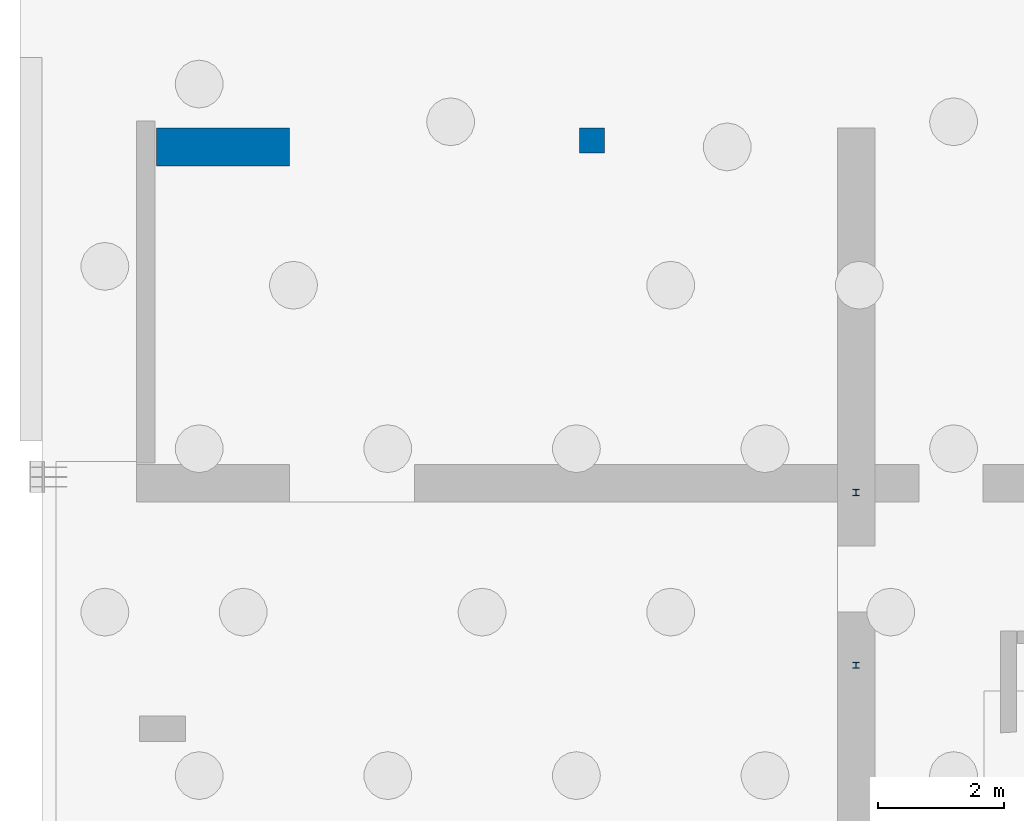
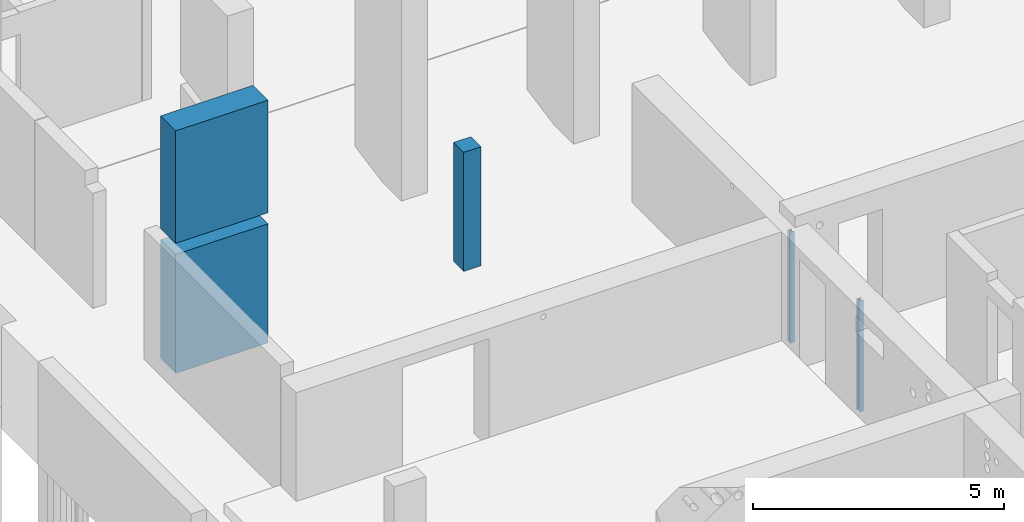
# One storey, part 11 of 26: 4 columns.
"""IFC2X3 building model written with IfcOpenShell, lengths in millimetres."""

from ifc_helpers import new_model, entity, si_unit, converted_unit, derived_unit, direction, frame, frame_2d, origin, origin_2d_with_axis, place, context, subcontext, project, spatial, polyline, circle_curve, parameter, trimmed, segment, composite_curve, rectangle, outline, extrude, source, transform, mapped, material, type_object, type_shapes, element, save


model = new_model("IFC2X3")

# Units and contexts
model_context = context("Model", 3, precision=0.01, world=origin(), true_north=direction((6.12303176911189e-17, 1.0)))
body_context = subcontext(model_context, "Body", "Model", "MODEL_VIEW")
ifc_project = project(units=[si_unit("LENGTHUNIT", "METRE", prefix="MILLI"), si_unit("AREAUNIT", "SQUARE_METRE"), si_unit("VOLUMEUNIT", "CUBIC_METRE"), converted_unit("PLANEANGLEUNIT", "DEGREE", entity("IfcRatioMeasure", 0.0174532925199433), si_unit("PLANEANGLEUNIT", "RADIAN"), dimensions=[0, 0, 0, 0, 0, 0, 0]), si_unit("MASSUNIT", "GRAM", prefix="KILO"), derived_unit("MASSDENSITYUNIT", [(si_unit("MASSUNIT", "GRAM", prefix="KILO"), 1), (si_unit("LENGTHUNIT", "METRE"), -3)]), si_unit("TIMEUNIT", "SECOND"), si_unit("FREQUENCYUNIT", "HERTZ"), si_unit("THERMODYNAMICTEMPERATUREUNIT", "DEGREE_CELSIUS"), derived_unit("THERMALTRANSMITTANCEUNIT", [(si_unit("MASSUNIT", "GRAM", prefix="KILO"), 1), (si_unit("THERMODYNAMICTEMPERATUREUNIT", "KELVIN"), -1), (si_unit("TIMEUNIT", "SECOND"), -3)]), derived_unit("VOLUMETRICFLOWRATEUNIT", [(si_unit("LENGTHUNIT", "METRE"), 3), (si_unit("TIMEUNIT", "SECOND"), -1)]), si_unit("ELECTRICCURRENTUNIT", "AMPERE"), si_unit("ELECTRICVOLTAGEUNIT", "VOLT"), si_unit("POWERUNIT", "WATT"), si_unit("FORCEUNIT", "NEWTON", prefix="KILO"), si_unit("ILLUMINANCEUNIT", "LUX"), si_unit("LUMINOUSFLUXUNIT", "LUMEN"), si_unit("LUMINOUSINTENSITYUNIT", "CANDELA"), derived_unit("USERDEFINED", [(si_unit("MASSUNIT", "GRAM", prefix="KILO"), -1), (si_unit("LENGTHUNIT", "METRE"), -2), (si_unit("TIMEUNIT", "SECOND"), 3), (si_unit("LUMINOUSFLUXUNIT", "LUMEN"), 1)]), derived_unit("LINEARVELOCITYUNIT", [(si_unit("LENGTHUNIT", "METRE"), 1), (si_unit("TIMEUNIT", "SECOND"), -1)]), si_unit("PRESSUREUNIT", "PASCAL"), derived_unit("USERDEFINED", [(si_unit("LENGTHUNIT", "METRE"), -2), (si_unit("MASSUNIT", "GRAM", prefix="KILO"), 1), (si_unit("TIMEUNIT", "SECOND"), -2)])], contexts=[model_context])

# Site, building, storey
site_placement = place(None, origin())
site = spatial("IfcSite", under=ifc_project, at=site_placement, Name="Default", CompositionType="ELEMENT")
building_placement = place(site_placement, origin())
building = spatial("IfcBuilding", under=site, at=building_placement, Name="niet gebruiken", CompositionType="ELEMENT")
storey_placement = place(building_placement, origin())
storey = spatial("IfcBuildingStorey", under=building, at=storey_placement, Name="00 begane grond", CompositionType="ELEMENT", Elevation=0.0)

# Columns
ifc_material_1 = material(Name="NLRS_f2_beton ihwg")
column_type_1 = type_object("IfcColumnType", Name="600x2120", PredefinedType="COLUMN", material=ifc_material_1)
shared_shape_1 = source(origin(), body_context, "Body", "SweptSolid", [
    extrude(rectangle(XDim=600.000000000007, YDim=2120.0, at=origin_2d_with_axis()), frame((125630.0, 30100.0, 2910.0), z_axis=(0.0, 0.0, 1.0), x_axis=(0.0, -1.0, 0.0)), (0.0, 0.0, 1.0), 2730.0),
    extrude(rectangle(XDim=600.000000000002, YDim=2120.0, at=origin_2d_with_axis()), frame((125630.0, 30100.0, -250.0), z_axis=(0.0, 0.0, 1.0), x_axis=(0.0, -1.0, 0.0)), (0.0, 0.0, 1.0), 2890.0),
])
type_shapes(column_type_1, [shared_shape_1])
column_1_placement = place(storey_placement, origin())
element("IfcColumn", 1, at=column_1_placement, inside=storey, type_object=column_type_1, material=ifc_material_1, Name="NLRS_28.11_SCO_TLB_beton kolom ihwg_gen:600x2120", ObjectType="600x2120", context=body_context, shape_type="MappedRepresentation", body=[
    mapped(shared_shape_1, transform((0.0, 0.0, 0.0), scale=1.0)),
])
column_type_2 = type_object("IfcColumnType", Name="400x400", PredefinedType="COLUMN", material=ifc_material_1)
shared_shape_2 = source(origin(), body_context, "Body", "SweptSolid", [
    extrude(rectangle(XDim=400.0, YDim=399.999999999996, at=frame_2d((2.17426077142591e-12, 0.0), x_axis=(1.0, 0.0))), frame((131500.0, 30200.0, -250.0), z_axis=(0.0, 0.0, 1.0), x_axis=(0.0, -1.0, 0.0)), (0.0, 0.0, 1.0), 2890.0),
])
type_shapes(column_type_2, [shared_shape_2])
column_2_placement = place(storey_placement, origin())
element("IfcColumn", 2, at=column_2_placement, inside=storey, type_object=column_type_2, material=ifc_material_1, Name="NLRS_28.11_SCO_TLB_beton kolom ihwg_gen:400x400", ObjectType="400x400", context=body_context, shape_type="MappedRepresentation", body=[
    mapped(shared_shape_2, transform((0.0, 0.0, 0.0), scale=1.0)),
])
ifc_material_2 = material(Name="NLRS_h2_staal")
column_type_3 = type_object("IfcColumnType", Name="kolom HEA 100", PredefinedType="COLUMN", material=ifc_material_2)
shared_shape_3 = source(origin(), body_context, "Body", "SweptSolid", [
    extrude(outline(composite_curve([segment(polyline([(40.0, -50.0), (48.0, -50.0)]), True, "CONTINUOUS"), segment(polyline([(48.0, -50.0), (48.0, 50.0)]), True, "CONTINUOUS"), segment(polyline([(48.0, 50.0), (40.0, 50.0)]), True, "CONTINUOUS"), segment(polyline([(40.0, 50.0), (40.0, 14.5000000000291)]), True, "CONTINUOUS"), segment(trimmed(circle_curve(frame_2d((28.0, 14.5000000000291), x_axis=(1.0, 0.0)), 12.0000000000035), [parameter(270.0)], [parameter(0.0)], True, "PARAMETER"), False, "CONTINUOUS"), segment(polyline([(28.0, 2.5000000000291), (-28.0, 2.5000000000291)]), True, "CONTINUOUS"), segment(trimmed(circle_curve(frame_2d((-28.0, 14.5000000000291), x_axis=(0.0, -1.0)), 12.0000000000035), [parameter(270.0)], [parameter(0.0)], True, "PARAMETER"), False, "CONTINUOUS"), segment(polyline([(-40.0, 14.5000000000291), (-40.0, 50.0)]), True, "CONTINUOUS"), segment(polyline([(-40.0, 50.0), (-48.0, 50.0)]), True, "CONTINUOUS"), segment(polyline([(-48.0, 50.0), (-48.0, -50.0)]), True, "CONTINUOUS"), segment(polyline([(-48.0, -50.0), (-40.0, -50.0)]), True, "CONTINUOUS"), segment(polyline([(-40.0, -50.0), (-40.0, -14.4999999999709)]), True, "CONTINUOUS"), segment(trimmed(circle_curve(frame_2d((-28.0, -14.5), x_axis=(-1.0, 0.0)), 12.0000000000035), [parameter(270.0)], [parameter(0.0)], True, "PARAMETER"), False, "CONTINUOUS"), segment(polyline([(-28.0, -2.4999999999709), (28.0, -2.4999999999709)]), True, "CONTINUOUS"), segment(trimmed(circle_curve(frame_2d((28.0, -14.5), x_axis=(0.0, 1.0)), 12.0000000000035), [parameter(270.0)], [parameter(0.0)], True, "PARAMETER"), False, "CONTINUOUS"), segment(polyline([(40.0, -14.5), (40.0, -50.0)]), True, "CONTINUOUS")], self_intersect=False)), frame((135700.0, 21853.0, -220.0), z_axis=(0.0, 0.0, 1.0), x_axis=(0.0, -1.0, 0.0)), (0.0, 0.0, 1.0), 2700.0),
])
type_shapes(column_type_3, [shared_shape_3])
column_3_placement = place(storey_placement, origin())
element("IfcColumn", 3, at=column_3_placement, inside=storey, type_object=column_type_3, material=ifc_material_2, Name="NLRS_28.11_SCO_TLB_stalen kolom HEA_gen:kolom HEA 100", ObjectType="kolom HEA 100", context=body_context, shape_type="MappedRepresentation", body=[
    mapped(shared_shape_3, transform((0.0, 0.0, 0.0), scale=1.0)),
])
column_type_4 = type_object("IfcColumnType", Name="kolom HEA 100", PredefinedType="COLUMN", material=ifc_material_2)
shared_shape_4 = source(origin(), body_context, "Body", "SweptSolid", [
    extrude(outline(composite_curve([segment(polyline([(40.0, -50.0), (48.0, -50.0)]), True, "CONTINUOUS"), segment(polyline([(48.0, -50.0), (48.0, 50.0)]), True, "CONTINUOUS"), segment(polyline([(48.0, 50.0), (40.0, 50.0)]), True, "CONTINUOUS"), segment(polyline([(40.0, 50.0), (40.0, 14.4999999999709)]), True, "CONTINUOUS"), segment(trimmed(circle_curve(frame_2d((28.0, 14.4999999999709), x_axis=(1.0, 0.0)), 12.0000000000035), [parameter(270.0)], [parameter(0.0)], True, "PARAMETER"), False, "CONTINUOUS"), segment(polyline([(28.0, 2.5), (-28.0, 2.5)]), True, "CONTINUOUS"), segment(trimmed(circle_curve(frame_2d((-28.0, 14.4999999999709), x_axis=(0.0, -1.0)), 12.0000000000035), [parameter(270.0)], [parameter(0.0)], True, "PARAMETER"), False, "CONTINUOUS"), segment(polyline([(-40.0, 14.4999999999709), (-40.0, 50.0)]), True, "CONTINUOUS"), segment(polyline([(-40.0, 50.0), (-48.0, 50.0)]), True, "CONTINUOUS"), segment(polyline([(-48.0, 50.0), (-48.0, -50.0)]), True, "CONTINUOUS"), segment(polyline([(-48.0, -50.0), (-40.0, -50.0)]), True, "CONTINUOUS"), segment(polyline([(-40.0, -50.0), (-40.0, -14.5)]), True, "CONTINUOUS"), segment(trimmed(circle_curve(frame_2d((-28.0, -14.5000000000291), x_axis=(-1.0, 0.0)), 12.0000000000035), [parameter(270.0)], [parameter(0.0)], True, "PARAMETER"), False, "CONTINUOUS"), segment(polyline([(-28.0, -2.5), (28.0, -2.5)]), True, "CONTINUOUS"), segment(trimmed(circle_curve(frame_2d((28.0, -14.5000000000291), x_axis=(0.0, 1.0)), 12.0000000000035), [parameter(270.0)], [parameter(0.0)], True, "PARAMETER"), False, "CONTINUOUS"), segment(polyline([(40.0, -14.5000000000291), (40.0, -50.0)]), True, "CONTINUOUS")], self_intersect=False)), frame((135700.0, 24603.0, -220.0), z_axis=(0.0, 0.0, 1.0), x_axis=(0.0, -1.0, 0.0)), (0.0, 0.0, 1.0), 2700.0),
])
type_shapes(column_type_4, [shared_shape_4])
column_4_placement = place(storey_placement, origin())
element("IfcColumn", 4, at=column_4_placement, inside=storey, type_object=column_type_4, material=ifc_material_2, Name="NLRS_28.11_SCO_TLB_stalen kolom HEA_gen:kolom HEA 100", ObjectType="kolom HEA 100", context=body_context, shape_type="MappedRepresentation", body=[
    mapped(shared_shape_4, transform((0.0, 0.0, 0.0), scale=1.0)),
])

save(model, "model.ifc")
